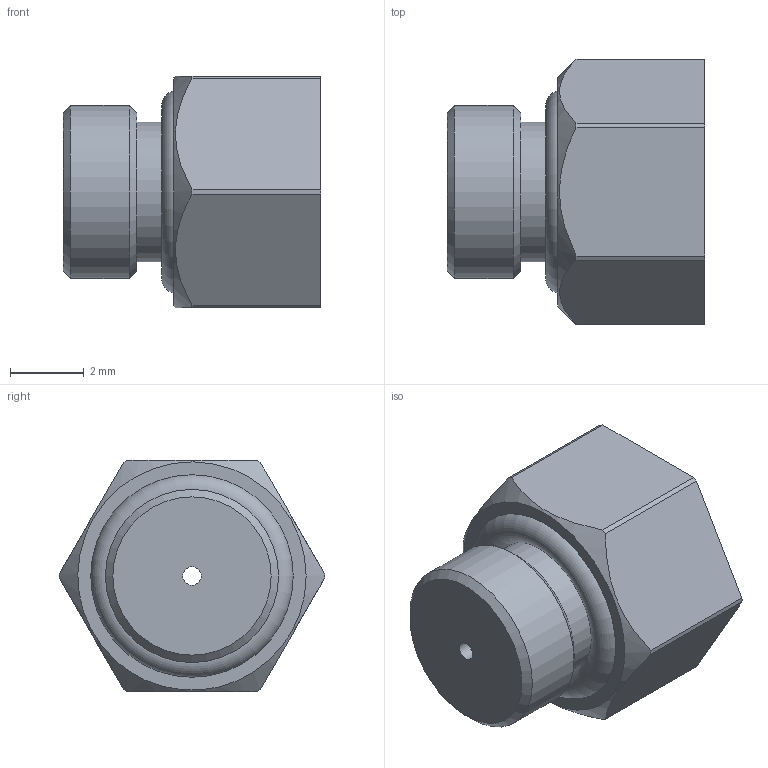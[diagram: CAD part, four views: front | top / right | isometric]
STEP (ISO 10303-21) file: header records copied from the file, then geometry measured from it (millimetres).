
FILE_DESCRIPTION((''),'2;1');
FILE_NAME('F:\AirCom-Produktdokumentation\Volumenstromregelung\RF\CAD\CAD AirCom\3D\B-RF4.stp','2008-10-15T15:46:21',('Frank Schroers'),(''),'Autodesk Inventor 2008','Autodesk Inventor 2008','');
FILE_SCHEMA(('AUTOMOTIVE_DESIGN { 1 0 10303 214 1 1 1 1 }'));
Length unit declared in the file: millimetre
Products named in the file (1): B-RF4
Bounding box: 7 x 7.2 x 6.3 mm (x, y, z)
Volume: 183 mm3; surface area: 248.7 mm2
Topology: 1 solids, 3 shells, 30 faces, 66 edges, 42 vertices
Faces by surface type: cylinder 12, plane 12, torus 3, cone 3
Full cylindrical faces by diameter (mm): 0.5 x1, 3.8 x2, 4.7 x1, 5.5 x2
Entity records: 800 total; most frequent: DIRECTION 138, CARTESIAN_POINT 137, ORIENTED_EDGE 106, AXIS2_PLACEMENT_3D 60, EDGE_CURVE 53, EDGE_LOOP 48, VERTEX_POINT 41, FACE_OUTER_BOUND 30
